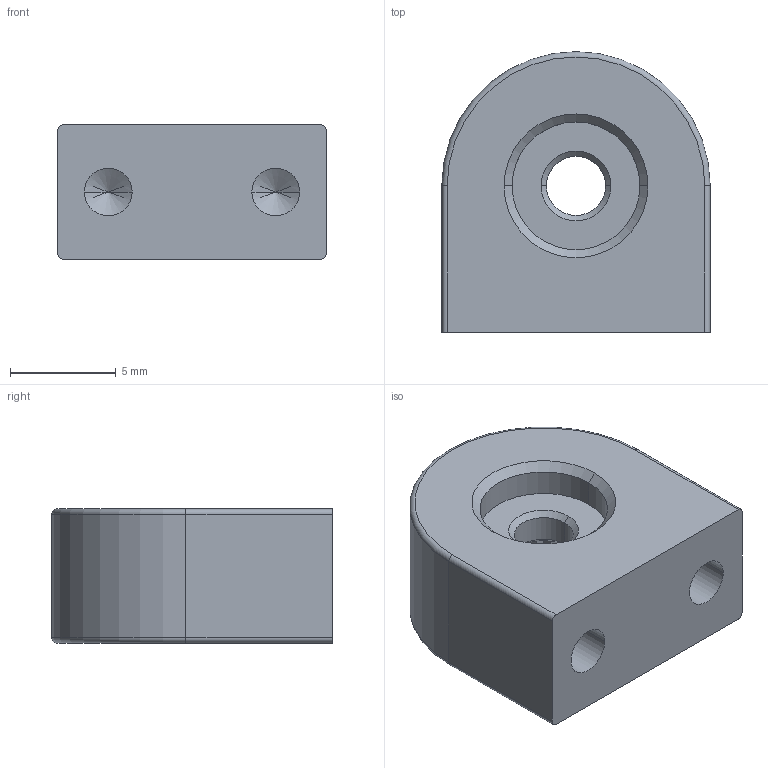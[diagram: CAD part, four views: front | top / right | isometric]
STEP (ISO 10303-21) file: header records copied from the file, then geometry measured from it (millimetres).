
FILE_DESCRIPTION((''),'2;1');
FILE_NAME('SF-1511','2014-04-03T',('t_salvp'),(''),'PRO/ENGINEER BY PARAMETRIC TECHNOLOGY CORPORATION, 2012310','PRO/ENGINEER BY PARAMETRIC TECHNOLOGY CORPORATION, 2012310','');
FILE_SCHEMA(('CONFIG_CONTROL_DESIGN'));
Length unit declared in the file: inch
Products named in the file (1): SF-1511
Bounding box: 12.7 x 13.27 x 6.35 mm (x, y, z)
Volume: 777.4 mm3; surface area: 770.2 mm2
Topology: 1 solids, 1 shells, 82 faces, 218 edges, 138 vertices
Faces by surface type: plane 55, cylinder 13, cone 12, torus 2
Entity records: 2670 total; most frequent: CARTESIAN_POINT 674, ORIENTED_EDGE 428, DIRECTION 366, EDGE_CURVE 214, VERTEX_POINT 138, VECTOR 130, LINE 130, AXIS2_PLACEMENT_3D 118
